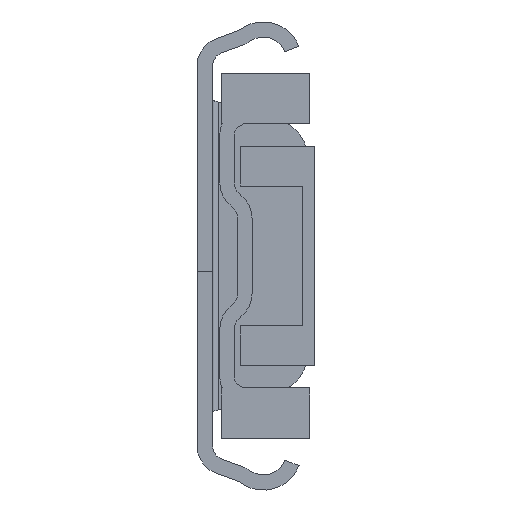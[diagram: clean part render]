
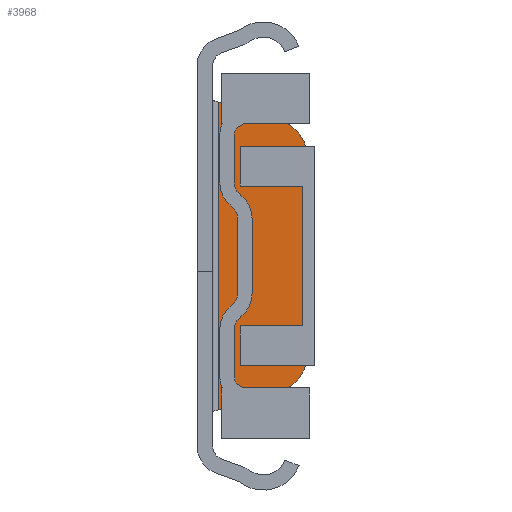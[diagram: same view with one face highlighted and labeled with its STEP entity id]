
A CAD part, front view. The second image highlights one B-rep face of the part: STEP entity #3968.
In plain terms, the highlighted planar face has unit normal (0, -1, 0).
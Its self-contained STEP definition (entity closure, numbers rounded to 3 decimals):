
#338=LINE('',#6826,#722);
#339=LINE('',#6831,#723);
#340=LINE('',#6835,#724);
#341=LINE('',#6837,#725);
#722=VECTOR('',#5654,1000.);
#723=VECTOR('',#5657,1000.);
#724=VECTOR('',#5660,1000.);
#725=VECTOR('',#5661,1000.);
#890=PLANE('',#4709);
#1746=ORIENTED_EDGE('',*,*,#2470,.F.);
#1747=ORIENTED_EDGE('',*,*,#2471,.F.);
#1748=ORIENTED_EDGE('',*,*,#2472,.F.);
#1749=ORIENTED_EDGE('',*,*,#2473,.F.);
#1750=ORIENTED_EDGE('',*,*,#2474,.F.);
#1751=ORIENTED_EDGE('',*,*,#2475,.F.);
#2470=EDGE_CURVE('',#2908,#2909,#338,.T.);
#2471=EDGE_CURVE('',#2910,#2908,#3136,.F.);
#2472=EDGE_CURVE('',#2911,#2910,#339,.T.);
#2473=EDGE_CURVE('',#2912,#2911,#3137,.F.);
#2474=EDGE_CURVE('',#2913,#2912,#340,.T.);
#2475=EDGE_CURVE('',#2909,#2913,#341,.T.);
#2908=VERTEX_POINT('',#6827);
#2909=VERTEX_POINT('',#6828);
#2910=VERTEX_POINT('',#6830);
#2911=VERTEX_POINT('',#6832);
#2912=VERTEX_POINT('',#6834);
#2913=VERTEX_POINT('',#6836);
#3136=CIRCLE('',#4710,8.);
#3137=CIRCLE('',#4711,8.);
#3380=EDGE_LOOP('',(#1746,#1747,#1748,#1749,#1750,#1751));
#3650=FACE_BOUND('',#3380,.T.);
#3968=ADVANCED_FACE('',(#3650),#890,.T.);
#4709=AXIS2_PLACEMENT_3D('',#6825,#5652,#5653);
#4710=AXIS2_PLACEMENT_3D('',#6829,#5655,#5656);
#4711=AXIS2_PLACEMENT_3D('',#6833,#5658,#5659);
#5652=DIRECTION('',(0.,-1.,0.));
#5653=DIRECTION('',(0.,0.,-1.));
#5654=DIRECTION('',(-0.966,0.,-0.259));
#5655=DIRECTION('',(0.,-1.,0.));
#5656=DIRECTION('',(0.,0.,-1.));
#5657=DIRECTION('',(0.,0.,-1.));
#5658=DIRECTION('',(0.,-1.,0.));
#5659=DIRECTION('',(0.,0.,-1.));
#5660=DIRECTION('',(0.966,0.,-0.259));
#5661=DIRECTION('',(0.,0.,1.));
#6825=CARTESIAN_POINT('',(12.9,1623.1,14.965));
#6826=CARTESIAN_POINT('',(22.316,1623.1,-20.174));
#6827=CARTESIAN_POINT('',(12.471,1623.1,-22.812));
#6828=CARTESIAN_POINT('',(3.5,1623.1,-25.216));
#6829=CARTESIAN_POINT('',(10.4,1623.1,-15.085));
#6830=CARTESIAN_POINT('',(18.4,1623.1,-15.085));
#6831=CARTESIAN_POINT('',(18.4,1623.1,14.965));
#6832=CARTESIAN_POINT('',(18.4,1623.1,15.085));
#6833=CARTESIAN_POINT('',(10.4,1623.1,15.085));
#6834=CARTESIAN_POINT('',(12.471,1623.1,22.812));
#6835=CARTESIAN_POINT('',(14.833,1623.1,22.179));
#6836=CARTESIAN_POINT('',(3.5,1623.1,25.216));
#6837=CARTESIAN_POINT('',(3.5,1623.1,-25.766));
